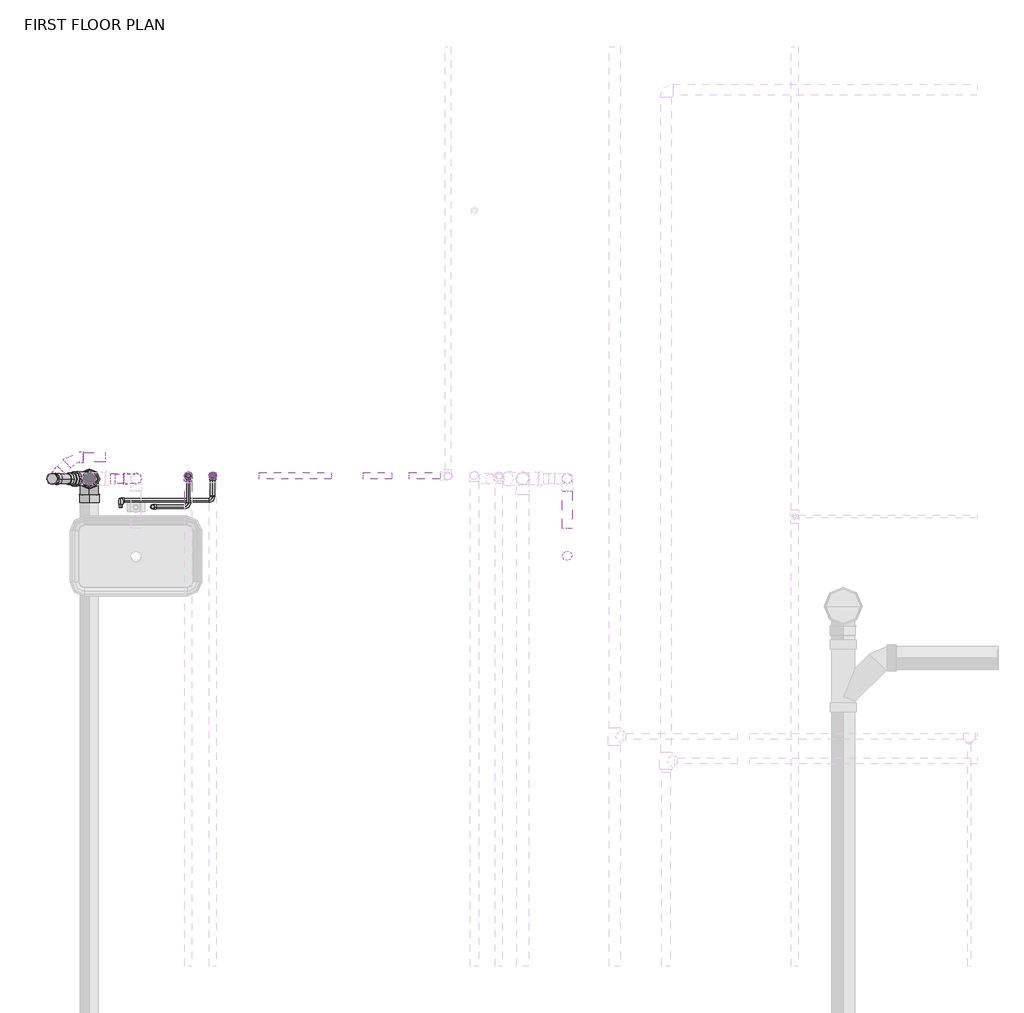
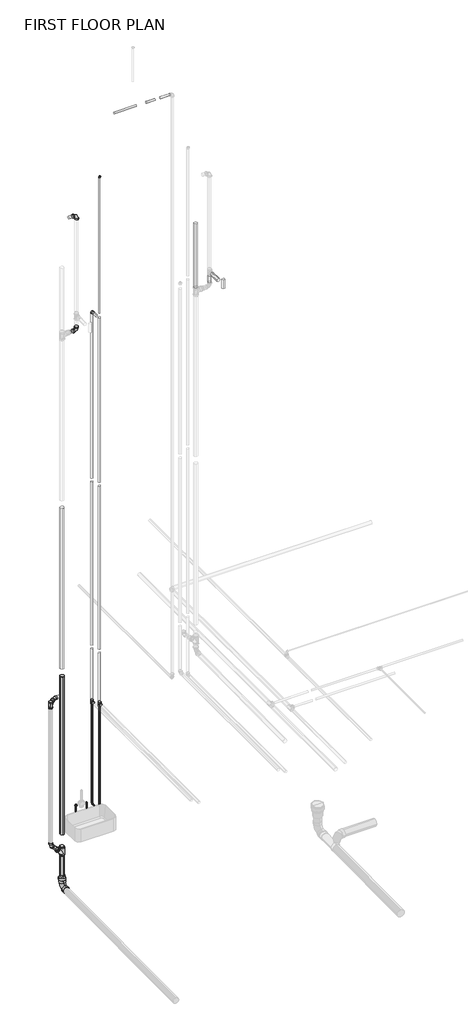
# One storey, part 16 of 29: 32 pipe segments, 25 pipe fittings.
"""IFC4 building model written with IfcOpenShell, lengths in millimetres."""

from ifc_helpers import new_model, si_unit, point, frame, frame_2d, origin, place, context, project, spatial, circle_curve, trimmed, segment, composite_curve, outline, extrude, transform, mapped, element, save
from components import bend_pvc_sch_40_dwv_standard_2a70e4cc, bend_pvc_sch_40_dwv_standard_738aab8b, bend_pvc_sch_40_dwv_standard_9b1ab2e2, bend_pvc_sch_40_dwv_standard_0fc7ae8a, ges_wye_45_deg_threaded_mi_class_150_cast_iron_sanitary_d237d51e, pipe_elbow_copper_k_feaaf02c, pipe_elbow_copper_k_aad62f2d, pipe_elbow_copper_k_aee2f062, pipe_elbow_copper_k_4cfe590c, pipe_elbow_copper_k_69a8f9be, pipe_tee_copper_k_60c871d1, pipe_transition_copper_k_859ff352, pipe_transition_copper_k_46d96269, pipe_transition_copper_k_a9268ca5, pipe_transition_copper_k_a0e390c6, reducer_pvc_sch_40_dwv_standard_f288b410, reducer_pvc_sch_40_dwv_standard_44865e00, tee_sanitary_pvc_sch_40_dwv_standard_be04015c

model = new_model("IFC4")

# Units and contexts
model_context = context("Model", 3, world=origin())
ifc_project = project(units=[si_unit("LENGTHUNIT", "METRE", prefix="MILLI")], contexts=[model_context])

# Site, building, storey
site = spatial("IfcSite", under=ifc_project)
building = spatial("IfcBuilding", under=site)
storey = spatial("IfcBuildingStorey", under=building, Name="FIRST FLOOR PLAN", Elevation=0.0)

# Pipe fittings
placement = place(None, origin())
bend_pvc_sch_40_dwv_standard_shape = bend_pvc_sch_40_dwv_standard_2a70e4cc(model_context)
element("IfcPipeFitting", 1, ObjectType="Bend - PVC - Sch 40 - DWV : Standard", at=placement, inside=storey, context=model_context, shape_type="MappedRepresentation", body=[
    mapped(bend_pvc_sch_40_dwv_standard_shape, transform((8237.1173243, 8911.4608349, -446.4463425), x_axis=(0.0, 0.0, -1.0), y_axis=(0.0, -1.0, 0.0), z_axis=(-1.0, 0.0, 0.0))),
])
bend_pvc_sch_40_dwv_standard_2_shape = bend_pvc_sch_40_dwv_standard_738aab8b(model_context)
element("IfcPipeFitting", 2, ObjectType="Bend - PVC - Sch 40 - DWV : Standard", at=placement, inside=storey, context=model_context, shape_type="MappedRepresentation", body=[
    mapped(bend_pvc_sch_40_dwv_standard_2_shape, transform((8467.5209875, 8912.11907, 10809.6112003), x_axis=(0.0, 0.0, 1.0), y_axis=(-0.9999449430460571, -0.010493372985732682, 0.0), z_axis=(0.010493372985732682, -0.9999449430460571, 0.0))),
])
element("IfcPipeFitting", 3, ObjectType="Bend - PVC - Sch 40 - DWV : Standard", at=placement, inside=storey, context=model_context, shape_type="MappedRepresentation", body=[
    mapped(bend_pvc_sch_40_dwv_standard_2_shape, transform((8467.5209875, 8911.4608349, 8872.0213983), x_axis=(1.0, 0.0, 0.0), y_axis=(0.0, 0.0, 1.0), z_axis=(0.0, -1.0, 0.0))),
])
bend_pvc_sch_40_dwv_standard_3_shape = bend_pvc_sch_40_dwv_standard_9b1ab2e2(model_context)
element("IfcPipeFitting", 4, ObjectType="Bend - PVC - Sch 40 - DWV : Standard", at=placement, inside=storey, context=model_context, shape_type="MappedRepresentation", body=[
    mapped(bend_pvc_sch_40_dwv_standard_3_shape, transform((8160.2854233, 9017.6936683, 2685.8337384), x_axis=(-0.9999457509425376, 0.0, 0.010416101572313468), y_axis=(4.542044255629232e-05, -0.9999904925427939, 0.004360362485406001), z_axis=(0.010416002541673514, 0.004360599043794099, 0.9999362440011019))),
])
bend_pvc_sch_40_dwv_standard_4_shape = bend_pvc_sch_40_dwv_standard_0fc7ae8a(model_context)
element("IfcPipeFitting", 5, ObjectType="Bend - PVC - Sch 40 - DWV : Standard", at=placement, inside=storey, context=model_context, shape_type="MappedRepresentation", body=[
    mapped(bend_pvc_sch_40_dwv_standard_4_shape, transform((8054.0645357, 8912.2933983, 305.1924646), x_axis=(0.0, 0.0, -1.0), y_axis=(0.9999896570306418, -0.004548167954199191, 0.0), z_axis=(-0.004548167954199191, -0.9999896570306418, 0.0))),
])
ges_wye_45_deg_threaded_mi_class_150_cast_iron_sanitary_shape = ges_wye_45_deg_threaded_mi_class_150_cast_iron_sanitary_d237d51e(model_context)
element("IfcPipeFitting", 6, ObjectType="GES Wye 45 Deg - Threaded - MI - Class 150 : Cast Iron- Sanitary", at=placement, inside=storey, context=model_context, shape_type="MappedRepresentation", body=[
    mapped(ges_wye_45_deg_threaded_mi_class_150_cast_iron_sanitary_shape, transform((8237.1173243, 8911.4608349, 122.1428758), x_axis=(0.0, 0.0, 1.0), y_axis=(0.9999896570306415, -0.004548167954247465, 0.0), z_axis=(0.004548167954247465, 0.9999896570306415, 0.0))),
])
pipe_elbow_copper_k_shape = pipe_elbow_copper_k_feaaf02c(model_context)
element("IfcPipeFitting", 7, ObjectType="Pipe Elbow : Copper- K", at=placement, inside=storey, context=model_context, shape_type="MappedRepresentation", body=[
    mapped(pipe_elbow_copper_k_shape, transform((8845.7410297, 8927.8175381, 658.9178352), x_axis=(0.0, 1.0, 0.0), y_axis=(0.0, 0.0, 1.0), z_axis=(1.0, 0.0, 0.0))),
])
pipe_elbow_copper_k_2_shape = pipe_elbow_copper_k_aad62f2d(model_context)
element("IfcPipeFitting", 8, ObjectType="Pipe Elbow : Copper- K", at=placement, inside=storey, context=model_context, shape_type="MappedRepresentation", body=[
    mapped(pipe_elbow_copper_k_2_shape, transform((8725.0084875, 8927.8175381, 770.7360969), x_axis=(0.0, 0.0, -1.0), y_axis=(0.0, -1.0, 0.0), z_axis=(-1.0, 0.0, 0.0))),
])
element("IfcPipeFitting", 9, ObjectType="Pipe Elbow : Copper- K", at=placement, inside=storey, context=model_context, shape_type="MappedRepresentation", body=[
    mapped(pipe_elbow_copper_k_2_shape, transform((8725.0084875, 8774.1278432, 770.7360969), x_axis=(0.9999999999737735, 0.0, -7.242448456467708e-06), y_axis=(0.0, 1.0000000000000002, 0.0), z_axis=(7.242448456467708e-06, 0.0, 0.9999999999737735))),
])
element("IfcPipeFitting", 10, ObjectType="Pipe Elbow : Copper- K", at=placement, inside=storey, context=model_context, shape_type="MappedRepresentation", body=[
    mapped(pipe_elbow_copper_k_2_shape, transform((8845.7410297, 8806.2157662, 658.9178352), x_axis=(1.0, 0.0, 0.0), y_axis=(0.0, 1.0, 0.0), z_axis=(0.0, 0.0, 1.0))),
])
element("IfcPipeFitting", 11, ObjectType="Pipe Elbow : Copper- K", at=placement, inside=storey, context=model_context, shape_type="MappedRepresentation", body=[
    mapped(pipe_elbow_copper_k_2_shape, transform((8845.7410297, 8927.8175381, 11328.4), x_axis=(0.0, 0.0, 1.0), y_axis=(0.0, -1.0, 0.0), z_axis=(1.0, 0.0, 0.0))),
])
pipe_elbow_copper_k_3_shape = pipe_elbow_copper_k_aee2f062(model_context)
element("IfcPipeFitting", 12, ObjectType="Pipe Elbow : Copper- K", at=placement, inside=storey, context=model_context, shape_type="MappedRepresentation", body=[
    mapped(pipe_elbow_copper_k_3_shape, transform((8725.0084875, 8927.8175381, 9083.0784105), x_axis=(0.0, 1.0, 0.0), y_axis=(0.0, 0.0, -1.0), z_axis=(-1.0, 0.0, 0.0))),
])
pipe_elbow_copper_k_4_shape = pipe_elbow_copper_k_4cfe590c(model_context)
element("IfcPipeFitting", 13, ObjectType="Pipe Elbow : Copper- K", at=placement, inside=storey, context=model_context, shape_type="MappedRepresentation", body=[
    mapped(pipe_elbow_copper_k_4_shape, transform((8549.7163377, 8774.1278432, 770.7373664), x_axis=(0.0, 0.0, -1.0), y_axis=(1.0, 0.0, 0.0), z_axis=(0.0, -1.0, 0.0))),
])
pipe_elbow_copper_k_5_shape = pipe_elbow_copper_k_69a8f9be(model_context)
element("IfcPipeFitting", 14, ObjectType="Pipe Elbow : Copper- K", at=placement, inside=storey, context=model_context, shape_type="MappedRepresentation", body=[
    mapped(pipe_elbow_copper_k_5_shape, transform((8392.4641516, 8806.2157662, 658.9178352), x_axis=(-1.0, 0.0, 0.0), y_axis=(0.0, 0.0, -1.0), z_axis=(0.0, -1.0, 0.0))),
])
element("IfcPipeFitting", 15, ObjectType="Pipe Elbow : Copper- K", at=placement, inside=storey, context=model_context, shape_type="MappedRepresentation", body=[
    mapped(pipe_elbow_copper_k_5_shape, transform((8392.4641516, 8806.2157662, 944.8601563), x_axis=(0.0, 0.0, 1.0), y_axis=(0.0, 1.0, 0.0), z_axis=(-1.0, 0.0, 0.0))),
])
pipe_tee_copper_k_shape = pipe_tee_copper_k_60c871d1(model_context)
element("IfcPipeFitting", 16, ObjectType="Pipe Tee : Copper- K", at=placement, inside=storey, context=model_context, shape_type="MappedRepresentation", body=[
    mapped(pipe_tee_copper_k_shape, transform((8725.0084875, 8927.8175381, 2490.6882813), x_axis=(0.0, 0.0, -1.0), y_axis=(0.0, 1.0, 0.0), z_axis=(1.0, 0.0, 0.0))),
])
element("IfcPipeFitting", 17, ObjectType="Pipe Tee : Copper- K", at=placement, inside=storey, context=model_context, shape_type="MappedRepresentation", body=[
    mapped(pipe_tee_copper_k_shape, transform((8845.7410297, 8927.8175381, 2413.0), x_axis=(0.0, 0.0, -1.0), y_axis=(0.0, 1.0, 0.0), z_axis=(1.0, 0.0, 0.0))),
])
pipe_transition_copper_k_shape = pipe_transition_copper_k_859ff352(model_context)
element("IfcPipeFitting", 18, ObjectType="Pipe Transition : Copper- K", at=placement, inside=storey, context=model_context, shape_type="MappedRepresentation", body=[
    mapped(pipe_transition_copper_k_shape, transform((8725.0084875, 8927.8175381, 793.7548469), x_axis=(0.0, 0.0, -1.0), y_axis=(-1.0, 0.0, 0.0), z_axis=(0.0, 1.0, 0.0))),
])
element("IfcPipeFitting", 19, ObjectType="Pipe Transition : Copper- K", at=placement, inside=storey, context=model_context, shape_type="MappedRepresentation", body=[
    mapped(pipe_transition_copper_k_shape, transform((8845.7410297, 8927.8175381, 11305.38125), x_axis=(0.0, 0.0, 1.0), y_axis=(1.0, 0.0, 0.0), z_axis=(0.0, 1.0, 0.0))),
])
pipe_transition_copper_k_2_shape = pipe_transition_copper_k_46d96269(model_context)
element("IfcPipeFitting", 20, ObjectType="Pipe Transition : Copper- K", at=placement, inside=storey, context=model_context, shape_type="MappedRepresentation", body=[
    mapped(pipe_transition_copper_k_2_shape, transform((8845.7410297, 8823.6782662, 658.9178352), x_axis=(0.0, 1.0, 0.0), y_axis=(-1.0, 0.0, 0.0), z_axis=(0.0, 0.0, 1.0))),
])
pipe_transition_copper_k_3_shape = pipe_transition_copper_k_a9268ca5(model_context)
element("IfcPipeFitting", 21, ObjectType="Pipe Transition : Copper- K", at=placement, inside=storey, context=model_context, shape_type="MappedRepresentation", body=[
    mapped(pipe_transition_copper_k_3_shape, transform((8725.0084875, 8927.8175381, 2457.3507813), x_axis=(0.0, 0.0, -1.0), y_axis=(-1.0, 0.0, 0.0), z_axis=(0.0, 1.0, 0.0))),
])
pipe_transition_copper_k_4_shape = pipe_transition_copper_k_a0e390c6(model_context)
element("IfcPipeFitting", 22, ObjectType="Pipe Transition : Copper- K", at=placement, inside=storey, context=model_context, shape_type="MappedRepresentation", body=[
    mapped(pipe_transition_copper_k_4_shape, transform((8845.7410297, 8927.8175381, 2375.296875), x_axis=(0.0, 0.0, 1.0), y_axis=(1.0, 0.0, 0.0), z_axis=(0.0, 1.0, 0.0))),
])
reducer_pvc_sch_40_dwv_standard_shape = reducer_pvc_sch_40_dwv_standard_f288b410(model_context)
element("IfcPipeFitting", 23, ObjectType="Reducer - PVC - Sch 40 - DWV : Standard", at=placement, inside=storey, context=model_context, shape_type="MappedRepresentation", body=[
    mapped(reducer_pvc_sch_40_dwv_standard_shape, transform((8165.2797196, 8911.7875677, 193.9792248), x_axis=(-0.7071093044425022, 0.0032160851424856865, 0.7070969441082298), y_axis=(-0.004548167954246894, -0.9999896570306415, 0.0), z_axis=(0.7070896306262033, -0.003215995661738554, 0.7071166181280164))),
])
reducer_pvc_sch_40_dwv_standard_2_shape = reducer_pvc_sch_40_dwv_standard_44865e00(model_context)
element("IfcPipeFitting", 24, ObjectType="Reducer - PVC - Sch 40 - DWV : Standard", at=placement, inside=storey, context=model_context, shape_type="MappedRepresentation", body=[
    mapped(reducer_pvc_sch_40_dwv_standard_2_shape, transform((8237.1173243, 8911.4608349, -251.1711425), x_axis=(0.0, 0.0, -1.0), y_axis=(0.0, 1.0, 0.0), z_axis=(1.0, 0.0, 0.0))),
])
tee_sanitary_pvc_sch_40_dwv_standard_shape = tee_sanitary_pvc_sch_40_dwv_standard_be04015c(model_context)
element("IfcPipeFitting", 25, ObjectType="Tee Sanitary - PVC - Sch 40 - DWV : Standard", at=placement, inside=storey, context=model_context, shape_type="MappedRepresentation", body=[
    mapped(tee_sanitary_pvc_sch_40_dwv_standard_shape, transform((8054.0645565, 8912.2979631, 2687.3998234), x_axis=(0.0, 0.0, 1.0), y_axis=(-0.7098586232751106, -0.7043441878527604, 0.0), z_axis=(0.7043441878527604, -0.7098586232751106, 0.0))),
])

# Pipe segments
element("IfcPipeSegment", 26, ObjectType="Black Iron - GAS", at=placement, inside=storey, context=model_context, shape_type="SweptSolid", body=[
    extrude(outline(composite_curve([segment(trimmed(circle_curve(frame_2d((8924.7677357, 12311.3499169)), 16.7005), [point((8941.4682357, 12311.3499169))], [point((8924.7677357, 12294.6494169))], False, "CARTESIAN"), True, "CONTINUOUS"), segment(trimmed(circle_curve(frame_2d((8924.7677357, 12311.3499169)), 16.7005), [point((8924.7677357, 12294.6494169))], [point((8908.0672357, 12311.3499169))], False, "CARTESIAN"), True, "CONTINUOUS"), segment(trimmed(circle_curve(frame_2d((8924.7677357, 12311.3499169)), 16.7005), [point((8908.0672357, 12311.3499169))], [point((8924.7677357, 12328.0504169))], False, "CARTESIAN"), True, "CONTINUOUS"), segment(trimmed(circle_curve(frame_2d((8924.7677357, 12311.3499169)), 16.7005), [point((8924.7677357, 12328.0504169))], [point((8941.4682357, 12311.3499169))], False, "CARTESIAN"), True, "CONTINUOUS")], self_intersect=False)), frame((9076.1494117, 0.0, 0.0), z_axis=(1.0, 0.0, 0.0), x_axis=(0.0, 1.0, 0.0)), (0.0, 0.0, 1.0), 355.6),
])
element("IfcPipeSegment", 27, ObjectType="Black Iron - GAS", at=placement, inside=storey, context=model_context, shape_type="SweptSolid", body=[
    extrude(outline(composite_curve([segment(trimmed(circle_curve(frame_2d((8924.7677357, 12311.3499169)), 16.7005), [point((8941.4682357, 12311.3499169))], [point((8924.7677357, 12294.6494169))], False, "CARTESIAN"), True, "CONTINUOUS"), segment(trimmed(circle_curve(frame_2d((8924.7677357, 12311.3499169)), 16.7005), [point((8924.7677357, 12294.6494169))], [point((8908.0672357, 12311.3499169))], False, "CARTESIAN"), True, "CONTINUOUS"), segment(trimmed(circle_curve(frame_2d((8924.7677357, 12311.3499169)), 16.7005), [point((8908.0672357, 12311.3499169))], [point((8924.7677357, 12328.0504169))], False, "CARTESIAN"), True, "CONTINUOUS"), segment(trimmed(circle_curve(frame_2d((8924.7677357, 12311.3499169)), 16.7005), [point((8924.7677357, 12328.0504169))], [point((8941.4682357, 12311.3499169))], False, "CARTESIAN"), True, "CONTINUOUS")], self_intersect=False)), frame((9814.5693875, 0.0, 0.0), z_axis=(1.0, 0.0, 0.0), x_axis=(0.0, 1.0, 0.0)), (0.0, 0.0, 1.0), 153.9373044),
])
element("IfcPipeSegment", 28, ObjectType="Black Iron - GAS", at=placement, inside=storey, context=model_context, shape_type="SweptSolid", body=[
    extrude(outline(composite_curve([segment(trimmed(circle_curve(frame_2d((8924.7677357, 12311.3499169)), 16.7005), [point((8941.4682357, 12311.3499169))], [point((8924.7677357, 12294.6494169))], False, "CARTESIAN"), True, "CONTINUOUS"), segment(trimmed(circle_curve(frame_2d((8924.7677357, 12311.3499169)), 16.7005), [point((8924.7677357, 12294.6494169))], [point((8908.0672357, 12311.3499169))], False, "CARTESIAN"), True, "CONTINUOUS"), segment(trimmed(circle_curve(frame_2d((8924.7677357, 12311.3499169)), 16.7005), [point((8908.0672357, 12311.3499169))], [point((8924.7677357, 12328.0504169))], False, "CARTESIAN"), True, "CONTINUOUS"), segment(trimmed(circle_curve(frame_2d((8924.7677357, 12311.3499169)), 16.7005), [point((8924.7677357, 12328.0504169))], [point((8941.4682357, 12311.3499169))], False, "CARTESIAN"), True, "CONTINUOUS")], self_intersect=False)), frame((9589.3475875, 0.0, 0.0), z_axis=(1.0, 0.0, 0.0), x_axis=(0.0, 1.0, 0.0)), (0.0, 0.0, 1.0), 139.7),
])
element("IfcPipeSegment", 29, ObjectType="Copper", at=placement, inside=storey, context=model_context, shape_type="SweptSolid", body=[
    extrude(outline(composite_curve([segment(trimmed(circle_curve(frame_2d((8845.7410297, 8927.8175381)), 11.1125), [point((8834.6285297, 8927.8175381))], [point((8845.7410297, 8938.9300381))], False, "CARTESIAN"), True, "CONTINUOUS"), segment(trimmed(circle_curve(frame_2d((8845.7410297, 8927.8175381)), 11.1125), [point((8845.7410297, 8938.9300381))], [point((8856.8535297, 8927.8175381))], False, "CARTESIAN"), True, "CONTINUOUS"), segment(trimmed(circle_curve(frame_2d((8845.7410297, 8927.8175381)), 11.1125), [point((8856.8535297, 8927.8175381))], [point((8845.7410297, 8916.7050381))], False, "CARTESIAN"), True, "CONTINUOUS"), segment(trimmed(circle_curve(frame_2d((8845.7410297, 8927.8175381)), 11.1125), [point((8845.7410297, 8916.7050381))], [point((8834.6285297, 8927.8175381))], False, "CARTESIAN"), True, "CONTINUOUS")], self_intersect=False)), frame((0.0, 0.0, 9013.3289063), z_axis=(0.0, 0.0, 1.0), x_axis=(1.0, 0.0, 0.0)), (0.0, 0.0, 1.0), 2292.0523437),
])
element("IfcPipeSegment", 30, ObjectType="Copper", at=placement, inside=storey, context=model_context, shape_type="SweptSolid", body=[
    extrude(outline(composite_curve([segment(trimmed(circle_curve(frame_2d((8725.0084875, 8927.8175381)), 17.4625), [point((8742.4709875, 8927.8175381))], [point((8725.0084875, 8910.3550381))], False, "CARTESIAN"), True, "CONTINUOUS"), segment(trimmed(circle_curve(frame_2d((8725.0084875, 8927.8175381)), 17.4625), [point((8725.0084875, 8910.3550381))], [point((8707.5459875, 8927.8175381))], False, "CARTESIAN"), True, "CONTINUOUS"), segment(trimmed(circle_curve(frame_2d((8725.0084875, 8927.8175381)), 17.4625), [point((8707.5459875, 8927.8175381))], [point((8725.0084875, 8945.2800381))], False, "CARTESIAN"), True, "CONTINUOUS"), segment(trimmed(circle_curve(frame_2d((8725.0084875, 8927.8175381)), 17.4625), [point((8725.0084875, 8945.2800381))], [point((8742.4709875, 8927.8175381))], False, "CARTESIAN"), True, "CONTINUOUS")], self_intersect=False)), frame((0.0, 0.0, 6271.6171883), z_axis=(0.0, 0.0, 1.0), x_axis=(1.0, 0.0, 0.0)), (0.0, 0.0, 1.0), 2784.4737222),
])
element("IfcPipeSegment", 31, ObjectType="Copper", at=placement, inside=storey, context=model_context, shape_type="SweptSolid", body=[
    extrude(outline(composite_curve([segment(trimmed(circle_curve(frame_2d((944.8601563, 8392.4641516)), 7.9375), [point((944.8601563, 8384.5266516))], [point((936.9226563, 8392.4641516))], False, "CARTESIAN"), True, "CONTINUOUS"), segment(trimmed(circle_curve(frame_2d((944.8601563, 8392.4641516)), 7.9375), [point((936.9226563, 8392.4641516))], [point((944.8601563, 8400.4016516))], False, "CARTESIAN"), True, "CONTINUOUS"), segment(trimmed(circle_curve(frame_2d((944.8601563, 8392.4641516)), 7.9375), [point((944.8601563, 8400.4016516))], [point((952.7976563, 8392.4641516))], False, "CARTESIAN"), True, "CONTINUOUS"), segment(trimmed(circle_curve(frame_2d((944.8601563, 8392.4641516)), 7.9375), [point((952.7976563, 8392.4641516))], [point((944.8601563, 8384.5266516))], False, "CARTESIAN"), True, "CONTINUOUS")], self_intersect=False)), frame((0.0, 8771.4354504, 0.0), z_axis=(0.0, 1.0, 0.0), x_axis=(0.0, 0.0, 1.0)), (0.0, 0.0, 1.0), 17.3178158),
])
element("IfcPipeSegment", 32, ObjectType="Copper", at=placement, inside=storey, context=model_context, shape_type="SweptSolid", body=[
    extrude(outline(composite_curve([segment(trimmed(circle_curve(frame_2d((8774.1278432, 770.7362234)), 7.9375), [point((8782.0653432, 770.7362234))], [point((8774.1278432, 762.7987234))], False, "CARTESIAN"), True, "CONTINUOUS"), segment(trimmed(circle_curve(frame_2d((8774.1278432, 770.7362234)), 7.9375), [point((8774.1278432, 762.7987234))], [point((8766.1903432, 770.7362234))], False, "CARTESIAN"), True, "CONTINUOUS"), segment(trimmed(circle_curve(frame_2d((8774.1278432, 770.7362234)), 7.9375), [point((8766.1903432, 770.7362234))], [point((8774.1278432, 778.6737234))], False, "CARTESIAN"), True, "CONTINUOUS"), segment(trimmed(circle_curve(frame_2d((8774.1278432, 770.7362234)), 7.9375), [point((8774.1278432, 778.6737234))], [point((8782.0653432, 770.7362234))], False, "CARTESIAN"), True, "CONTINUOUS")], self_intersect=False)), frame((8567.1787113, 0.0, 0.0), z_axis=(1.0, 0.0, 0.0), x_axis=(0.0, 1.0, 0.0)), (0.0, 0.0, 1.0), 140.3672762),
])
element("IfcPipeSegment", 33, ObjectType="Copper", at=placement, inside=storey, context=model_context, shape_type="SweptSolid", body=[
    extrude(outline(composite_curve([segment(trimmed(circle_curve(frame_2d((8549.7163377, 8774.1278432)), 7.9375), [point((8541.7788377, 8774.1278432))], [point((8549.7163377, 8782.0653432))], False, "CARTESIAN"), True, "CONTINUOUS"), segment(trimmed(circle_curve(frame_2d((8549.7163377, 8774.1278432)), 7.9375), [point((8549.7163377, 8782.0653432))], [point((8557.6538377, 8774.1278432))], False, "CARTESIAN"), True, "CONTINUOUS"), segment(trimmed(circle_curve(frame_2d((8549.7163377, 8774.1278432)), 7.9375), [point((8557.6538377, 8774.1278432))], [point((8549.7163377, 8766.1903432))], False, "CARTESIAN"), True, "CONTINUOUS"), segment(trimmed(circle_curve(frame_2d((8549.7163377, 8774.1278432)), 7.9375), [point((8549.7163377, 8766.1903432))], [point((8541.7788377, 8774.1278432))], False, "CARTESIAN"), True, "CONTINUOUS")], self_intersect=False)), frame((0.0, 0.0, 788.19974), z_axis=(0.0, 0.0, 1.0), x_axis=(1.0, 0.0, 0.0)), (0.0, 0.0, 1.0), 156.6604163),
])
element("IfcPipeSegment", 34, ObjectType="Copper", at=placement, inside=storey, context=model_context, shape_type="SweptSolid", body=[
    extrude(outline(composite_curve([segment(trimmed(circle_curve(frame_2d((8806.2157662, 658.9178352)), 7.9375), [point((8814.1532662, 658.9178352))], [point((8806.2157662, 650.9803352))], False, "CARTESIAN"), True, "CONTINUOUS"), segment(trimmed(circle_curve(frame_2d((8806.2157662, 658.9178352)), 7.9375), [point((8806.2157662, 650.9803352))], [point((8798.2782662, 658.9178352))], False, "CARTESIAN"), True, "CONTINUOUS"), segment(trimmed(circle_curve(frame_2d((8806.2157662, 658.9178352)), 7.9375), [point((8798.2782662, 658.9178352))], [point((8806.2157662, 666.8553352))], False, "CARTESIAN"), True, "CONTINUOUS"), segment(trimmed(circle_curve(frame_2d((8806.2157662, 658.9178352)), 7.9375), [point((8806.2157662, 666.8553352))], [point((8814.1532662, 658.9178352))], False, "CARTESIAN"), True, "CONTINUOUS")], self_intersect=False)), frame((8409.9266516, 0.0, 0.0), z_axis=(1.0, 0.0, 0.0), x_axis=(0.0, 1.0, 0.0)), (0.0, 0.0, 1.0), 418.351878),
])
element("IfcPipeSegment", 35, ObjectType="Copper", at=placement, inside=storey, context=model_context, shape_type="SweptSolid", body=[
    extrude(outline(composite_curve([segment(trimmed(circle_curve(frame_2d((8392.4641516, 8806.2157662)), 7.9375), [point((8384.5266516, 8806.2157662))], [point((8392.4641516, 8814.1532662))], False, "CARTESIAN"), True, "CONTINUOUS"), segment(trimmed(circle_curve(frame_2d((8392.4641516, 8806.2157662)), 7.9375), [point((8392.4641516, 8814.1532662))], [point((8400.4016516, 8806.2157662))], False, "CARTESIAN"), True, "CONTINUOUS"), segment(trimmed(circle_curve(frame_2d((8392.4641516, 8806.2157662)), 7.9375), [point((8400.4016516, 8806.2157662))], [point((8392.4641516, 8798.2782662))], False, "CARTESIAN"), True, "CONTINUOUS"), segment(trimmed(circle_curve(frame_2d((8392.4641516, 8806.2157662)), 7.9375), [point((8392.4641516, 8798.2782662))], [point((8384.5266516, 8806.2157662))], False, "CARTESIAN"), True, "CONTINUOUS")], self_intersect=False)), frame((0.0, 0.0, 676.3803352), z_axis=(0.0, 0.0, 1.0), x_axis=(1.0, 0.0, 0.0)), (0.0, 0.0, 1.0), 251.0173211),
])
element("IfcPipeSegment", 36, ObjectType="Copper", at=placement, inside=storey, context=model_context, shape_type="SweptSolid", body=[
    extrude(outline(composite_curve([segment(trimmed(circle_curve(frame_2d((8845.7410297, 8927.8175381)), 11.1125), [point((8834.6285297, 8927.8175381))], [point((8845.7410297, 8938.9300381))], False, "CARTESIAN"), True, "CONTINUOUS"), segment(trimmed(circle_curve(frame_2d((8845.7410297, 8927.8175381)), 11.1125), [point((8845.7410297, 8938.9300381))], [point((8856.8535297, 8927.8175381))], False, "CARTESIAN"), True, "CONTINUOUS"), segment(trimmed(circle_curve(frame_2d((8845.7410297, 8927.8175381)), 11.1125), [point((8856.8535297, 8927.8175381))], [point((8845.7410297, 8916.7050381))], False, "CARTESIAN"), True, "CONTINUOUS"), segment(trimmed(circle_curve(frame_2d((8845.7410297, 8927.8175381)), 11.1125), [point((8845.7410297, 8916.7050381))], [point((8834.6285297, 8927.8175381))], False, "CARTESIAN"), True, "CONTINUOUS")], self_intersect=False)), frame((0.0, 0.0, 679.5553352), z_axis=(0.0, 0.0, 1.0), x_axis=(1.0, 0.0, 0.0)), (0.0, 0.0, 1.0), 1695.7415398),
])
element("IfcPipeSegment", 37, ObjectType="Copper", at=placement, inside=storey, context=model_context, shape_type="SweptSolid", body=[
    extrude(outline(composite_curve([segment(trimmed(circle_curve(frame_2d((8725.0084875, 8927.8175381)), 11.1125), [point((8736.1209875, 8927.8175381))], [point((8725.0084875, 8916.7050381))], False, "CARTESIAN"), True, "CONTINUOUS"), segment(trimmed(circle_curve(frame_2d((8725.0084875, 8927.8175381)), 11.1125), [point((8725.0084875, 8916.7050381))], [point((8713.8959875, 8927.8175381))], False, "CARTESIAN"), True, "CONTINUOUS"), segment(trimmed(circle_curve(frame_2d((8725.0084875, 8927.8175381)), 11.1125), [point((8713.8959875, 8927.8175381))], [point((8725.0084875, 8938.9300381))], False, "CARTESIAN"), True, "CONTINUOUS"), segment(trimmed(circle_curve(frame_2d((8725.0084875, 8927.8175381)), 11.1125), [point((8725.0084875, 8938.9300381))], [point((8736.1209875, 8927.8175381))], False, "CARTESIAN"), True, "CONTINUOUS")], self_intersect=False)), frame((0.0, 0.0, 793.7548469), z_axis=(0.0, 0.0, 1.0), x_axis=(1.0, 0.0, 0.0)), (0.0, 0.0, 1.0), 1654.8646844),
])
element("IfcPipeSegment", 38, ObjectType="Copper", at=placement, inside=storey, context=model_context, shape_type="SweptSolid", body=[
    extrude(outline(composite_curve([segment(trimmed(circle_curve(frame_2d((770.7360969, 8725.0084875)), 7.9375), [point((770.7360969, 8717.0709875))], [point((762.7985969, 8725.0084875))], False, "CARTESIAN"), True, "CONTINUOUS"), segment(trimmed(circle_curve(frame_2d((770.7360969, 8725.0084875)), 7.9375), [point((762.7985969, 8725.0084875))], [point((770.7360969, 8732.9459875))], False, "CARTESIAN"), True, "CONTINUOUS"), segment(trimmed(circle_curve(frame_2d((770.7360969, 8725.0084875)), 7.9375), [point((770.7360969, 8732.9459875))], [point((778.6735969, 8725.0084875))], False, "CARTESIAN"), True, "CONTINUOUS"), segment(trimmed(circle_curve(frame_2d((770.7360969, 8725.0084875)), 7.9375), [point((778.6735969, 8725.0084875))], [point((770.7360969, 8717.0709875))], False, "CARTESIAN"), True, "CONTINUOUS")], self_intersect=False)), frame((0.0, 8791.5903432, 0.0), z_axis=(0.0, 1.0, 0.0), x_axis=(0.0, 0.0, 1.0)), (0.0, 0.0, 1.0), 118.7646948),
])
element("IfcPipeSegment", 39, ObjectType="Copper", at=placement, inside=storey, context=model_context, shape_type="SweptSolid", body=[
    extrude(outline(composite_curve([segment(trimmed(circle_curve(frame_2d((658.9178352, 8845.7410297)), 11.1125), [point((658.9178352, 8856.8535297))], [point((670.0303352, 8845.7410297))], False, "CARTESIAN"), True, "CONTINUOUS"), segment(trimmed(circle_curve(frame_2d((658.9178352, 8845.7410297)), 11.1125), [point((670.0303352, 8845.7410297))], [point((658.9178352, 8834.6285297))], False, "CARTESIAN"), True, "CONTINUOUS"), segment(trimmed(circle_curve(frame_2d((658.9178352, 8845.7410297)), 11.1125), [point((658.9178352, 8834.6285297))], [point((647.8053352, 8845.7410297))], False, "CARTESIAN"), True, "CONTINUOUS"), segment(trimmed(circle_curve(frame_2d((658.9178352, 8845.7410297)), 11.1125), [point((647.8053352, 8845.7410297))], [point((658.9178352, 8856.8535297))], False, "CARTESIAN"), True, "CONTINUOUS")], self_intersect=False)), frame((0.0, 8826.4563912, 0.0), z_axis=(0.0, 1.0, 0.0), x_axis=(0.0, 0.0, 1.0)), (0.0, 0.0, 1.0), 80.7236468),
])
element("IfcPipeSegment", 40, ObjectType="Copper", at=placement, inside=storey, context=model_context, shape_type="SweptSolid", body=[
    extrude(outline(composite_curve([segment(trimmed(circle_curve(frame_2d((8725.0084875, 8927.8175381)), 17.4625), [point((8707.5459875, 8927.8175381))], [point((8725.0084875, 8945.2800381))], False, "CARTESIAN"), True, "CONTINUOUS"), segment(trimmed(circle_curve(frame_2d((8725.0084875, 8927.8175381)), 17.4625), [point((8725.0084875, 8945.2800381))], [point((8742.4709875, 8927.8175381))], False, "CARTESIAN"), True, "CONTINUOUS"), segment(trimmed(circle_curve(frame_2d((8725.0084875, 8927.8175381)), 17.4625), [point((8742.4709875, 8927.8175381))], [point((8725.0084875, 8910.3550381))], False, "CARTESIAN"), True, "CONTINUOUS"), segment(trimmed(circle_curve(frame_2d((8725.0084875, 8927.8175381)), 17.4625), [point((8725.0084875, 8910.3550381))], [point((8707.5459875, 8927.8175381))], False, "CARTESIAN"), True, "CONTINUOUS")], self_intersect=False)), frame((0.0, 0.0, 2524.0257813), z_axis=(0.0, 0.0, 1.0), x_axis=(1.0, 0.0, 0.0)), (0.0, 0.0, 1.0), 861.5164071),
])
element("IfcPipeSegment", 41, ObjectType="Copper", at=placement, inside=storey, context=model_context, shape_type="SweptSolid", body=[
    extrude(outline(composite_curve([segment(trimmed(circle_curve(frame_2d((8845.7410297, 8927.8175381)), 17.4625), [point((8828.2785297, 8927.8175381))], [point((8845.7410297, 8945.2800381))], False, "CARTESIAN"), True, "CONTINUOUS"), segment(trimmed(circle_curve(frame_2d((8845.7410297, 8927.8175381)), 17.4625), [point((8845.7410297, 8945.2800381))], [point((8863.2035297, 8927.8175381))], False, "CARTESIAN"), True, "CONTINUOUS"), segment(trimmed(circle_curve(frame_2d((8845.7410297, 8927.8175381)), 17.4625), [point((8863.2035297, 8927.8175381))], [point((8845.7410297, 8910.3550381))], False, "CARTESIAN"), True, "CONTINUOUS"), segment(trimmed(circle_curve(frame_2d((8845.7410297, 8927.8175381)), 17.4625), [point((8845.7410297, 8910.3550381))], [point((8828.2785297, 8927.8175381))], False, "CARTESIAN"), True, "CONTINUOUS")], self_intersect=False)), frame((0.0, 0.0, 2446.3375), z_axis=(0.0, 0.0, 1.0), x_axis=(1.0, 0.0, 0.0)), (0.0, 0.0, 1.0), 827.3851563),
])
element("IfcPipeSegment", 42, ObjectType="Copper", at=placement, inside=storey, context=model_context, shape_type="SweptSolid", body=[
    extrude(outline(composite_curve([segment(trimmed(circle_curve(frame_2d((8725.0084875, 8927.8175381)), 17.4625), [point((8707.5459875, 8927.8175381))], [point((8725.0084875, 8945.2800381))], False, "CARTESIAN"), True, "CONTINUOUS"), segment(trimmed(circle_curve(frame_2d((8725.0084875, 8927.8175381)), 17.4625), [point((8725.0084875, 8945.2800381))], [point((8742.4709875, 8927.8175381))], False, "CARTESIAN"), True, "CONTINUOUS"), segment(trimmed(circle_curve(frame_2d((8725.0084875, 8927.8175381)), 17.4625), [point((8742.4709875, 8927.8175381))], [point((8725.0084875, 8910.3550381))], False, "CARTESIAN"), True, "CONTINUOUS"), segment(trimmed(circle_curve(frame_2d((8725.0084875, 8927.8175381)), 17.4625), [point((8725.0084875, 8910.3550381))], [point((8707.5459875, 8927.8175381))], False, "CARTESIAN"), True, "CONTINUOUS")], self_intersect=False)), frame((0.0, 0.0, 3452.2171883), z_axis=(0.0, 0.0, 1.0), x_axis=(1.0, 0.0, 0.0)), (0.0, 0.0, 1.0), 2752.725),
])
element("IfcPipeSegment", 43, ObjectType="Copper", at=placement, inside=storey, context=model_context, shape_type="SweptSolid", body=[
    extrude(outline(composite_curve([segment(trimmed(circle_curve(frame_2d((8845.7410297, 8927.8175381)), 17.4625), [point((8828.2785297, 8927.8175381))], [point((8845.7410297, 8945.2800381))], False, "CARTESIAN"), True, "CONTINUOUS"), segment(trimmed(circle_curve(frame_2d((8845.7410297, 8927.8175381)), 17.4625), [point((8845.7410297, 8945.2800381))], [point((8863.2035297, 8927.8175381))], False, "CARTESIAN"), True, "CONTINUOUS"), segment(trimmed(circle_curve(frame_2d((8845.7410297, 8927.8175381)), 17.4625), [point((8863.2035297, 8927.8175381))], [point((8845.7410297, 8910.3550381))], False, "CARTESIAN"), True, "CONTINUOUS"), segment(trimmed(circle_curve(frame_2d((8845.7410297, 8927.8175381)), 17.4625), [point((8845.7410297, 8910.3550381))], [point((8828.2785297, 8927.8175381))], False, "CARTESIAN"), True, "CONTINUOUS")], self_intersect=False)), frame((0.0, 0.0, 3340.3976563), z_axis=(0.0, 0.0, 1.0), x_axis=(1.0, 0.0, 0.0)), (0.0, 0.0, 1.0), 2752.725),
])
element("IfcPipeSegment", 44, ObjectType="Copper", at=placement, inside=storey, context=model_context, shape_type="SweptSolid", body=[
    extrude(outline(composite_curve([segment(trimmed(circle_curve(frame_2d((9083.0784105, 8725.0084875)), 17.4625), [point((9083.0784105, 8742.4709875))], [point((9100.5409105, 8725.0084875))], False, "CARTESIAN"), True, "CONTINUOUS"), segment(trimmed(circle_curve(frame_2d((9083.0784105, 8725.0084875)), 17.4625), [point((9100.5409105, 8725.0084875))], [point((9083.0784105, 8707.5459875))], False, "CARTESIAN"), True, "CONTINUOUS"), segment(trimmed(circle_curve(frame_2d((9083.0784105, 8725.0084875)), 17.4625), [point((9083.0784105, 8707.5459875))], [point((9065.6159105, 8725.0084875))], False, "CARTESIAN"), True, "CONTINUOUS"), segment(trimmed(circle_curve(frame_2d((9083.0784105, 8725.0084875)), 17.4625), [point((9065.6159105, 8725.0084875))], [point((9083.0784105, 8742.4709875))], False, "CARTESIAN"), True, "CONTINUOUS")], self_intersect=False)), frame((0.0, 8795.9559682, 0.0), z_axis=(0.0, 1.0, 0.0), x_axis=(0.0, 0.0, 1.0)), (0.0, 0.0, 1.0), 104.8740698),
])
element("IfcPipeSegment", 45, ObjectType="Copper", at=placement, inside=storey, context=model_context, shape_type="SweptSolid", body=[
    extrude(outline(composite_curve([segment(trimmed(circle_curve(frame_2d((8845.7410297, 8927.8175381)), 17.4625), [point((8828.2785297, 8927.8175381))], [point((8845.7410297, 8945.2800381))], False, "CARTESIAN"), True, "CONTINUOUS"), segment(trimmed(circle_curve(frame_2d((8845.7410297, 8927.8175381)), 17.4625), [point((8845.7410297, 8945.2800381))], [point((8863.2035297, 8927.8175381))], False, "CARTESIAN"), True, "CONTINUOUS"), segment(trimmed(circle_curve(frame_2d((8845.7410297, 8927.8175381)), 17.4625), [point((8863.2035297, 8927.8175381))], [point((8845.7410297, 8910.3550381))], False, "CARTESIAN"), True, "CONTINUOUS"), segment(trimmed(circle_curve(frame_2d((8845.7410297, 8927.8175381)), 17.4625), [point((8845.7410297, 8910.3550381))], [point((8828.2785297, 8927.8175381))], False, "CARTESIAN"), True, "CONTINUOUS")], self_intersect=False)), frame((0.0, 0.0, 6159.7976563), z_axis=(0.0, 0.0, 1.0), x_axis=(1.0, 0.0, 0.0)), (0.0, 0.0, 1.0), 2778.125),
])
element("IfcPipeSegment", 46, ObjectType="PVC - SAN/STORM", at=placement, inside=storey, context=model_context, shape_type="SweptSolid", body=[
    extrude(outline(composite_curve([segment(trimmed(circle_curve(frame_2d((0.0, 24.13)), 24.13), [point((0.0006196, 48.26))], [point((24.13, 24.1293804))], False, "CARTESIAN"), True, "CONTINUOUS"), segment(trimmed(circle_curve(frame_2d((0.0, 24.13)), 24.13), [point((24.13, 24.1293804))], [point((-0.0006195, 0.0))], False, "CARTESIAN"), True, "CONTINUOUS"), segment(trimmed(circle_curve(frame_2d((0.0, 24.13)), 24.13), [point((-0.0006195, 0.0))], [point((-24.13, 24.1306195))], False, "CARTESIAN"), True, "CONTINUOUS"), segment(trimmed(circle_curve(frame_2d((0.0, 24.13)), 24.13), [point((-24.13, 24.1306195))], [point((0.0006196, 48.26))], False, "CARTESIAN"), True, "CONTINUOUS")], self_intersect=False)), frame((8315.3350763, 8993.563639, 2684.2125306), z_axis=(-0.9999451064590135, 2.6901267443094e-07, 0.010477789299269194), x_axis=(0.010477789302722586, 2.5673154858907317e-05, 0.99994510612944)), (0.0, 0.0, 1.0), 109.033335),
])
element("IfcPipeSegment", 47, ObjectType="PVC - SAN/STORM", at=placement, inside=storey, context=model_context, shape_type="SweptSolid", body=[
    extrude(outline(composite_curve([segment(trimmed(circle_curve(frame_2d((0.0, -24.13)), 24.13), [point((-0.1552067, -48.2595008))], [point((-24.1295009, -23.9747933))], False, "CARTESIAN"), True, "CONTINUOUS"), segment(trimmed(circle_curve(frame_2d((0.0, -24.13)), 24.13), [point((-24.1295009, -23.9747933))], [point((0.1552067, -0.0004992))], False, "CARTESIAN"), True, "CONTINUOUS"), segment(trimmed(circle_curve(frame_2d((0.0, -24.13)), 24.13), [point((0.1552067, -0.0004992))], [point((24.1295008, -24.2852067))], False, "CARTESIAN"), True, "CONTINUOUS"), segment(trimmed(circle_curve(frame_2d((0.0, -24.13)), 24.13), [point((24.1295008, -24.2852067))], [point((-0.1552067, -48.2595008))], False, "CARTESIAN"), True, "CONTINUOUS")], self_intersect=False)), frame((8129.9333053, 8936.0780812, 229.215272), z_axis=(-0.7071093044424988, 0.0032160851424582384, 0.7070969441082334), x_axis=(0.7071042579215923, 0.0032161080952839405, 0.707101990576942)), (0.0, 0.0, 1.0), 64.4444601),
])
element("IfcPipeSegment", 48, ObjectType="PVC - SAN/STORM", at=placement, inside=storey, context=model_context, shape_type="SweptSolid", body=[
    extrude(outline(composite_curve([segment(trimmed(circle_curve(frame_2d((8237.1173243, 8911.4608349)), 30.1625), [point((8206.9548243, 8911.4608349))], [point((8237.1173243, 8941.6233349))], False, "CARTESIAN"), True, "CONTINUOUS"), segment(trimmed(circle_curve(frame_2d((8237.1173243, 8911.4608349)), 30.1625), [point((8237.1173243, 8941.6233349))], [point((8267.2798243, 8911.4608349))], False, "CARTESIAN"), True, "CONTINUOUS"), segment(trimmed(circle_curve(frame_2d((8237.1173243, 8911.4608349)), 30.1625), [point((8267.2798243, 8911.4608349))], [point((8237.1173243, 8881.2983349))], False, "CARTESIAN"), True, "CONTINUOUS"), segment(trimmed(circle_curve(frame_2d((8237.1173243, 8911.4608349)), 30.1625), [point((8237.1173243, 8881.2983349))], [point((8206.9548243, 8911.4608349))], False, "CARTESIAN"), True, "CONTINUOUS")], self_intersect=False)), frame((0.0, 0.0, -251.1711425), z_axis=(0.0, 0.0, 1.0), x_axis=(1.0, 0.0, 0.0)), (0.0, 0.0, 1.0), 335.8140184),
])
element("IfcPipeSegment", 49, ObjectType="PVC - SAN/STORM", at=placement, inside=storey, context=model_context, shape_type="SweptSolid", body=[
    extrude(outline(composite_curve([segment(trimmed(circle_curve(frame_2d((8237.1173243, 8911.4608349)), 30.1625), [point((8206.9548243, 8911.4608349))], [point((8237.1173243, 8941.6233349))], False, "CARTESIAN"), True, "CONTINUOUS"), segment(trimmed(circle_curve(frame_2d((8237.1173243, 8911.4608349)), 30.1625), [point((8237.1173243, 8941.6233349))], [point((8267.2798243, 8911.4608349))], False, "CARTESIAN"), True, "CONTINUOUS"), segment(trimmed(circle_curve(frame_2d((8237.1173243, 8911.4608349)), 30.1625), [point((8267.2798243, 8911.4608349))], [point((8237.1173243, 8881.2983349))], False, "CARTESIAN"), True, "CONTINUOUS"), segment(trimmed(circle_curve(frame_2d((8237.1173243, 8911.4608349)), 30.1625), [point((8237.1173243, 8881.2983349))], [point((8206.9548243, 8911.4608349))], False, "CARTESIAN"), True, "CONTINUOUS")], self_intersect=False)), frame((0.0, 0.0, 440.5365935), z_axis=(0.0, 0.0, 1.0), x_axis=(1.0, 0.0, 0.0)), (0.0, 0.0, 1.0), 2666.6745399),
])
element("IfcPipeSegment", 50, ObjectType="PVC - SAN/STORM", at=placement, inside=storey, context=model_context, shape_type="SweptSolid", body=[
    extrude(outline(composite_curve([segment(trimmed(circle_curve(frame_2d((8237.1173243, 8911.4608349)), 30.1625), [point((8206.9548243, 8911.4608349))], [point((8237.1173243, 8941.6233349))], False, "CARTESIAN"), True, "CONTINUOUS"), segment(trimmed(circle_curve(frame_2d((8237.1173243, 8911.4608349)), 30.1625), [point((8237.1173243, 8941.6233349))], [point((8267.2798243, 8911.4608349))], False, "CARTESIAN"), True, "CONTINUOUS"), segment(trimmed(circle_curve(frame_2d((8237.1173243, 8911.4608349)), 30.1625), [point((8267.2798243, 8911.4608349))], [point((8237.1173243, 8881.2983349))], False, "CARTESIAN"), True, "CONTINUOUS"), segment(trimmed(circle_curve(frame_2d((8237.1173243, 8911.4608349)), 30.1625), [point((8237.1173243, 8881.2983349))], [point((8206.9548243, 8911.4608349))], False, "CARTESIAN"), True, "CONTINUOUS")], self_intersect=False)), frame((0.0, 0.0, 3238.9863334), z_axis=(0.0, 0.0, 1.0), x_axis=(1.0, 0.0, 0.0)), (0.0, 0.0, 1.0), 2710.1752601),
])
element("IfcPipeSegment", 51, ObjectType="PVC - SAN/STORM", at=placement, inside=storey, context=model_context, shape_type="SweptSolid", body=[
    extrude(outline(composite_curve([segment(trimmed(circle_curve(frame_2d((10375.4881099, 8911.527761)), 30.1625), [point((10345.3256099, 8911.527761))], [point((10375.4881099, 8941.690261))], False, "CARTESIAN"), True, "CONTINUOUS"), segment(trimmed(circle_curve(frame_2d((10375.4881099, 8911.527761)), 30.1625), [point((10375.4881099, 8941.690261))], [point((10405.6506099, 8911.527761))], False, "CARTESIAN"), True, "CONTINUOUS"), segment(trimmed(circle_curve(frame_2d((10375.4881099, 8911.527761)), 30.1625), [point((10405.6506099, 8911.527761))], [point((10375.4881099, 8881.365261))], False, "CARTESIAN"), True, "CONTINUOUS"), segment(trimmed(circle_curve(frame_2d((10375.4881099, 8911.527761)), 30.1625), [point((10375.4881099, 8881.365261))], [point((10345.3256099, 8911.527761))], False, "CARTESIAN"), True, "CONTINUOUS")], self_intersect=False)), frame((0.0, 0.0, 8923.499597), z_axis=(0.0, 0.0, 1.0), x_axis=(1.0, 0.0, 0.0)), (0.0, 0.0, 1.0), 1081.0924419),
])
element("IfcPipeSegment", 52, ObjectType="PVC - SAN/STORM", at=placement, inside=storey, context=model_context, shape_type="SweptSolid", body=[
    extrude(outline(composite_curve([segment(trimmed(circle_curve(frame_2d((9113.0617935, 10595.0959875)), 24.13), [point((9113.0617935, 10619.2259875))], [point((9137.1917935, 10595.0959875))], False, "CARTESIAN"), True, "CONTINUOUS"), segment(trimmed(circle_curve(frame_2d((9113.0617935, 10595.0959875)), 24.13), [point((9137.1917935, 10595.0959875))], [point((9113.0617935, 10570.9659875))], False, "CARTESIAN"), True, "CONTINUOUS"), segment(trimmed(circle_curve(frame_2d((9113.0617935, 10595.0959875)), 24.13), [point((9113.0617935, 10570.9659875))], [point((9088.9317935, 10595.0959875))], False, "CARTESIAN"), True, "CONTINUOUS"), segment(trimmed(circle_curve(frame_2d((9113.0617935, 10595.0959875)), 24.13), [point((9088.9317935, 10595.0959875))], [point((9113.0617935, 10619.2259875))], False, "CARTESIAN"), True, "CONTINUOUS")], self_intersect=False)), frame((0.0, 8665.4385881, 0.0), z_axis=(0.0, 1.0, 0.0), x_axis=(0.0, 0.0, 1.0)), (0.0, 0.0, 1.0), 184.8955005),
])
element("IfcPipeSegment", 53, ObjectType="PVC - SAN/STORM", at=placement, inside=storey, context=model_context, shape_type="SweptSolid", body=[
    extrude(outline(composite_curve([segment(trimmed(circle_curve(frame_2d((10595.0959875, 8530.5137881)), 24.13), [point((10570.9659875, 8530.5137881))], [point((10595.0959875, 8554.6437881))], False, "CARTESIAN"), True, "CONTINUOUS"), segment(trimmed(circle_curve(frame_2d((10595.0959875, 8530.5137881)), 24.13), [point((10595.0959875, 8554.6437881))], [point((10619.2259875, 8530.5137881))], False, "CARTESIAN"), True, "CONTINUOUS"), segment(trimmed(circle_curve(frame_2d((10595.0959875, 8530.5137881)), 24.13), [point((10619.2259875, 8530.5137881))], [point((10595.0959875, 8506.3837881))], False, "CARTESIAN"), True, "CONTINUOUS"), segment(trimmed(circle_curve(frame_2d((10595.0959875, 8530.5137881)), 24.13), [point((10595.0959875, 8506.3837881))], [point((10570.9659875, 8530.5137881))], False, "CARTESIAN"), True, "CONTINUOUS")], self_intersect=False)), frame((0.0, 0.0, 9068.5990935), z_axis=(0.0, 0.0, 1.0), x_axis=(1.0, 0.0, 0.0)), (0.0, 0.0, 1.0), 141.6019923),
])
element("IfcPipeSegment", 54, ObjectType="PVC - SAN/STORM", at=placement, inside=storey, context=model_context, shape_type="SweptSolid", body=[
    extrude(outline(composite_curve([segment(trimmed(circle_curve(frame_2d((0.0, 24.13)), 24.13), [point((24.1056063, 25.2147321))], [point((1.0847321, 0.0243937))], False, "CARTESIAN"), True, "CONTINUOUS"), segment(trimmed(circle_curve(frame_2d((0.0, 24.13)), 24.13), [point((1.0847321, 0.0243937))], [point((-24.1056064, 23.0452679))], False, "CARTESIAN"), True, "CONTINUOUS"), segment(trimmed(circle_curve(frame_2d((0.0, 24.13)), 24.13), [point((-24.1056064, 23.0452679))], [point((-1.0847321, 48.2356064))], False, "CARTESIAN"), True, "CONTINUOUS"), segment(trimmed(circle_curve(frame_2d((0.0, 24.13)), 24.13), [point((-1.0847321, 48.2356064))], [point((24.1056063, 25.2147321))], False, "CARTESIAN"), True, "CONTINUOUS")], self_intersect=False)), frame((10595.1167162, 8887.6400721, 8932.8488692), z_axis=(-0.00017601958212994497, 0.003911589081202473, 0.9999923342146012), x_axis=(0.9999999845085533, 6.885162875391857e-07, 0.00017601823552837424)), (0.0, 0.0, 1.0), 117.7636591),
])
element("IfcPipeSegment", 55, ObjectType="PVC - SAN/STORM", at=placement, inside=storey, context=model_context, shape_type="SweptSolid", body=[
    extrude(outline(composite_curve([segment(trimmed(circle_curve(frame_2d((0.0, 24.13)), 24.13), [point((-24.13, 24.13))], [point((0.0, 48.26))], False, "CARTESIAN"), True, "CONTINUOUS"), segment(trimmed(circle_curve(frame_2d((0.0, 24.13)), 24.13), [point((0.0, 48.26))], [point((24.1299999, 24.13))], False, "CARTESIAN"), True, "CONTINUOUS"), segment(trimmed(circle_curve(frame_2d((0.0, 24.13)), 24.13), [point((24.1299999, 24.13))], [point((0.0, 0.0))], False, "CARTESIAN"), True, "CONTINUOUS"), segment(trimmed(circle_curve(frame_2d((0.0, 24.13)), 24.13), [point((0.0, 0.0))], [point((-24.13, 24.13))], False, "CARTESIAN"), True, "CONTINUOUS")], self_intersect=False)), frame((8342.8959875, 8911.4608349, 10785.4812003), z_axis=(0.9999999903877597, 0.00013865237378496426, 0.0), x_axis=(-0.00013865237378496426, 0.9999999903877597, 0.0)), (0.0, 0.0, 1.0), 62.7286086),
])
element("IfcPipeSegment", 56, ObjectType="PVC - SAN/STORM", at=placement, inside=storey, context=model_context, shape_type="SweptSolid", body=[
    extrude(outline(composite_curve([segment(trimmed(circle_curve(frame_2d((8237.1173243, 8911.4608349)), 30.1625), [point((8206.9548243, 8911.4608349))], [point((8237.1173243, 8941.6233349))], False, "CARTESIAN"), True, "CONTINUOUS"), segment(trimmed(circle_curve(frame_2d((8237.1173243, 8911.4608349)), 30.1625), [point((8237.1173243, 8941.6233349))], [point((8267.2798243, 8911.4608349))], False, "CARTESIAN"), True, "CONTINUOUS"), segment(trimmed(circle_curve(frame_2d((8237.1173243, 8911.4608349)), 30.1625), [point((8267.2798243, 8911.4608349))], [point((8237.1173243, 8881.2983349))], False, "CARTESIAN"), True, "CONTINUOUS"), segment(trimmed(circle_curve(frame_2d((8237.1173243, 8911.4608349)), 30.1625), [point((8237.1173243, 8881.2983349))], [point((8206.9548243, 8911.4608349))], False, "CARTESIAN"), True, "CONTINUOUS")], self_intersect=False)), frame((0.0, 0.0, 223.7362282), z_axis=(0.0, 0.0, 1.0), x_axis=(1.0, 0.0, 0.0)), (0.0, 0.0, 1.0), 10.4507653),
])
element("IfcPipeSegment", 57, ObjectType="PVC - SAN/STORM", at=placement, inside=storey, context=model_context, shape_type="SweptSolid", body=[
    extrude(outline(composite_curve([segment(trimmed(circle_curve(frame_2d((8911.4608349, 8872.0213983)), 24.13), [point((8887.3308349, 8872.0213983))], [point((8911.4608349, 8896.1513983))], False, "CARTESIAN"), True, "CONTINUOUS"), segment(trimmed(circle_curve(frame_2d((8911.4608349, 8872.0213983)), 24.13), [point((8911.4608349, 8896.1513983))], [point((8935.5908349, 8872.0213983))], False, "CARTESIAN"), True, "CONTINUOUS"), segment(trimmed(circle_curve(frame_2d((8911.4608349, 8872.0213983)), 24.13), [point((8935.5908349, 8872.0213983))], [point((8911.4608349, 8847.8913983))], False, "CARTESIAN"), True, "CONTINUOUS"), segment(trimmed(circle_curve(frame_2d((8911.4608349, 8872.0213983)), 24.13), [point((8911.4608349, 8847.8913983))], [point((8887.3308349, 8872.0213983))], False, "CARTESIAN"), True, "CONTINUOUS")], self_intersect=False)), frame((8364.8977919, 0.0, 0.0), z_axis=(1.0, 0.0, 0.0), x_axis=(0.0, 1.0, 0.0)), (0.0, 0.0, 1.0), 40.7233955),
])

save(model, "model.ifc")
